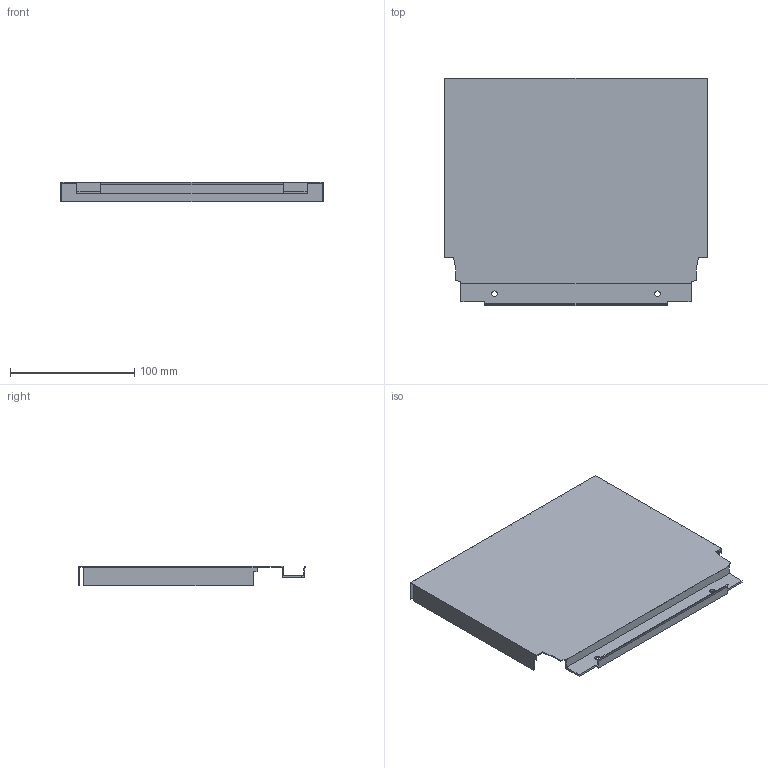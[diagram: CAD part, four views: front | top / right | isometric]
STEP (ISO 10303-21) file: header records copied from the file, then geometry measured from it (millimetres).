
FILE_DESCRIPTION (( 'STEP AP214' ), '1' );
FILE_NAME ('_DWD_XP Stahlrückwand_H182_KAB300_S19.step', '2010-07-08T12:58:02', ( 'grass' ), ( '' ), 'SwSTEP 2.0', 'SolidWorks 2010', '' );
FILE_SCHEMA (( 'AUTOMOTIVE_DESIGN' ));
Length unit declared in the file: millimetre
Products named in the file (1): _DWD_XP Stahlrückwand_H182_KAB300_S19
Bounding box: 211 x 182.49 x 16 mm (x, y, z)
Volume: 40711.6 mm3; surface area: 95658 mm2
Topology: 1 solids, 1 shells, 44 faces, 126 edges, 84 vertices
Faces by surface type: plane 40, cylinder 4
Entity records: 1460 total; most frequent: CARTESIAN_POINT 255, ORIENTED_EDGE 252, DIRECTION 224, EDGE_CURVE 126, LINE 118, VECTOR 118, VERTEX_POINT 84, AXIS2_PLACEMENT_3D 53
